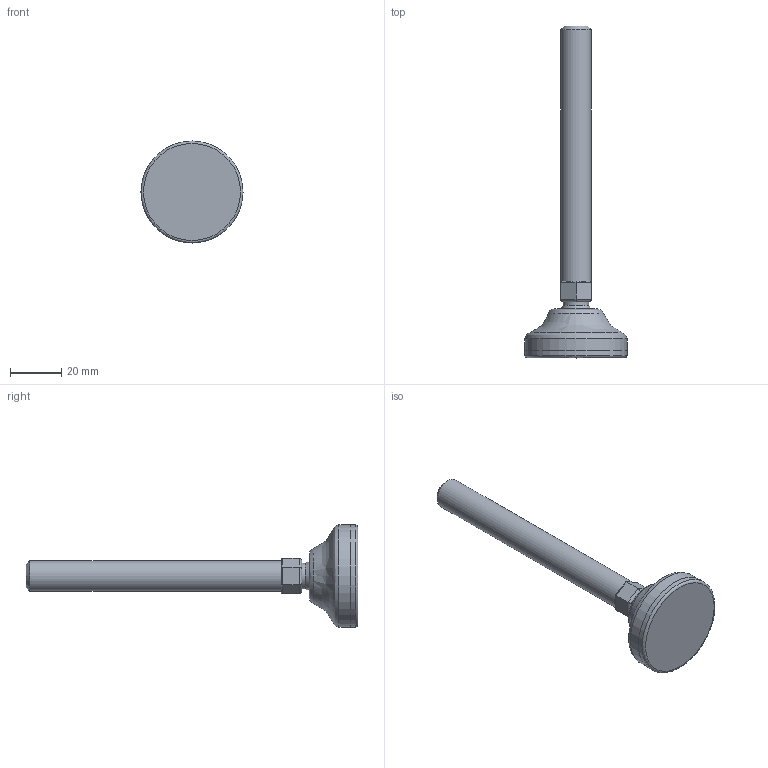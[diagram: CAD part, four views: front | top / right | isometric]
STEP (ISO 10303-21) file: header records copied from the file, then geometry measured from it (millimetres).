
FILE_DESCRIPTION(('STEP AP203'),'2;1');
FILE_NAME('10235-12.stp','2015-07-01T14:09:18',(''),(''),'2008.1.107','THINKDESIGN','');
FILE_SCHEMA(('CONFIG_CONTROL_DESIGN'));
Length unit declared in the file: millimetre
Bounding box: 40 x 130 x 40 mm (x, y, z)
Volume: 29557.9 mm3; surface area: 11220 mm2
Topology: 5 solids, 5 shells, 38 faces, 80 edges, 52 vertices
Faces by surface type: plane 16, cylinder 16, bspline 6
Full cylindrical faces by diameter (mm): 10.163 x1, 12 x1, 39.997 x1, 40 x1
Entity records: 1575 total; most frequent: CARTESIAN_POINT 681, DIRECTION 165, ORIENTED_EDGE 160, EDGE_CURVE 80, AXIS2_PLACEMENT_3D 65, VERTEX_POINT 52, EDGE_LOOP 38, FACE_OUTER_BOUND 38
